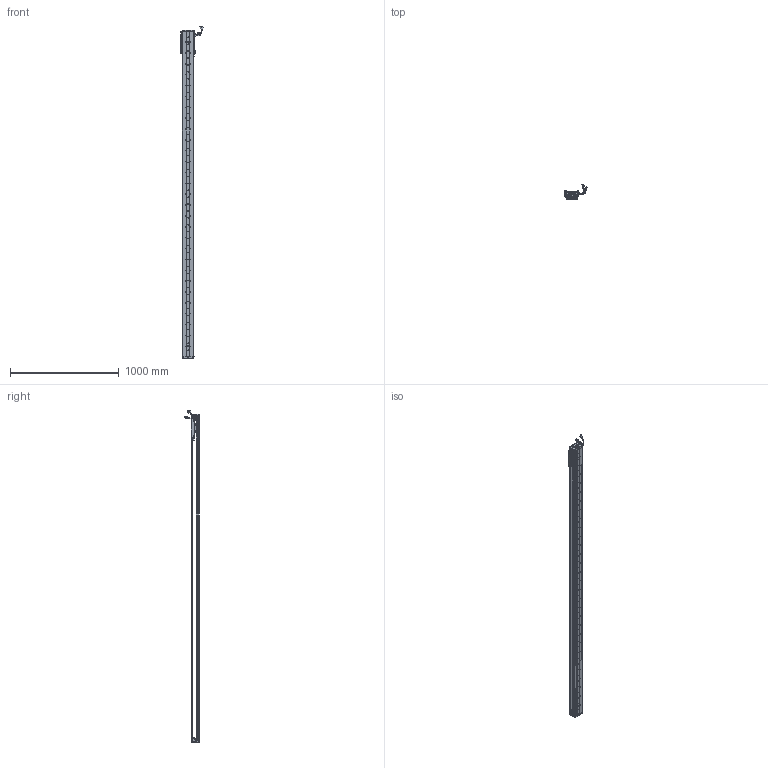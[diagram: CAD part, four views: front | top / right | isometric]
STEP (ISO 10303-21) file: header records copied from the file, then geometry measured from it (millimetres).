
FILE_DESCRIPTION (( 'STEP AP203' ), '1' );
FILE_NAME ('Z2-RY100D-1-L500-B-K.SLDASM_2750.step', '2021-05-17T02:38:24', ( '盈信电脑' ), ( '东莞市道滘镇水果街19号' ), 'SwSTEP 2.0', 'SolidWorks 2016', '' );
FILE_SCHEMA (( 'CONFIG_CONTROL_DESIGN' ));
Length unit declared in the file: millimetre
Products named in the file (36): COVER-Part-1; Z-RY100D詩湍狟揤裔; HOLDER0; Z2-RY100-L500詩湍90mm遵_2750; Z2-RY100D-1-L500-B-K.SLDASM_2750; HARNESS-Part-2; 100-Z-臏賑輸盄裔(21遴); Z-RY100D覜茼んえ; Z-RY100D詩湍奻揤裔; 榋妏寠巭燃_暯_M2_2; SCREW-M1.6; SCREW-M1.6-2; 140雄赽晤鎢ん堤盄; SCALE-Part-1; SHIELDPLATE; SEAL-Part-1; 140蚥薯蝶輸; SCALE; SCREW-M1.6-1; PSLH080_PSLF2; Z-100詩湍傷裔啣; 覜茼ん672; 080黍杅芛假蚾釱21遴; SCALE-Part-2; Z2-RY100D-500-倰第菁釱_2750; HARNESS-Part-1; HARNESS; SEAL; LABEL-Part-1; COVER; SCREW-M1.7-1; LABEL; SCREW-M1.7; Z2-RY100铝滑块（21款）; PBU_SHEET; SCREW-M1.6-3
Assembly tree (43 placements, depth 4):
  Z2-RY100D-1-L500-B-K.SLDASM_2750
    Z2-RY100D-500-倰第菁釱_2750
    Z2-RY100铝滑块（21款）
    PSLH080_PSLF2
      SCALE
        SCALE-Part-1
        SCALE-Part-2
      HARNESS
        HARNESS-Part-1
        HARNESS-Part-2
      LABEL
        LABEL-Part-1
      COVER
        COVER-Part-1
      SEAL
        SEAL-Part-1
      榋妏寠巭燃_暯_M2_2
      SHIELDPLATE
      SCREW-M1.7
      SCREW-M1.7-1
      PBU_SHEET
      SCREW-M1.6
      SCREW-M1.6-1
      SCREW-M1.6-2
      SCREW-M1.6-3
      HOLDER0
    080黍杅芛假蚾釱21遴
    Z-100詩湍傷裔啣  x2
    140蚥薯蝶輸  x2
    覜茼ん672  x3
    Z-RY100D覜茼んえ  x3
    100-Z-臏賑輸盄裔(21遴)
    140雄赽晤鎢ん堤盄
    Z2-RY100-L500詩湍90mm遵_2750
    Z-RY100D詩湍狟揤裔  x2
    Z-RY100D詩湍奻揤裔  x2
Bounding box: 205.79 x 136.11 x 3055.43 mm (x, y, z)
Volume: 5411601.2 mm3; surface area: 2153249.2 mm2
Topology: 38 solids, 38 shells, 3072 faces, 8451 edges, 5408 vertices
Faces by surface type: cylinder 1538, plane 1194, cone 218, torus 69, bspline 53
Entity records: 89967 total; most frequent: CARTESIAN_POINT 18852, DIRECTION 14531, ORIENTED_EDGE 13798, EDGE_CURVE 6899, AXIS2_PLACEMENT_3D 5479, VERTEX_POINT 4476, VECTOR 3573, LINE 3573
